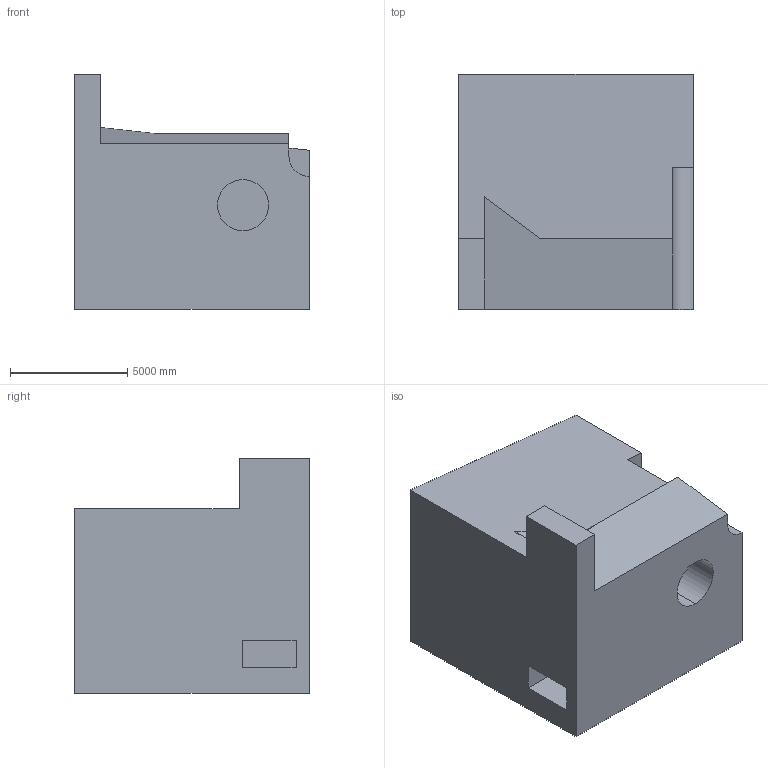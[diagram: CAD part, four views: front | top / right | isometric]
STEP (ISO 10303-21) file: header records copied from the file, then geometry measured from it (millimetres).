
FILE_DESCRIPTION (( 'STEP AP203' ), '1' );
FILE_NAME ('1418.STEP', '2022-08-18T14:21:34', ( 'user' ), ( '' ), 'SwSTEP 2.0', 'SolidWorks 2021', '' );
FILE_SCHEMA (( 'CONFIG_CONTROL_DESIGN' ));
Length unit declared in the file: centimetre
Products named in the file (1): 1418
Bounding box: 10000 x 10000 x 10000 mm (x, y, z)
Volume: 703161536863.2 mm3; surface area: 571813463.9 mm2
Topology: 1 solids, 1 shells, 22 faces, 54 edges, 36 vertices
Faces by surface type: plane 19, cylinder 3
Entity records: 721 total; most frequent: CARTESIAN_POINT 113, ORIENTED_EDGE 108, DIRECTION 106, EDGE_CURVE 54, LINE 48, VECTOR 48, VERTEX_POINT 36, AXIS2_PLACEMENT_3D 29
